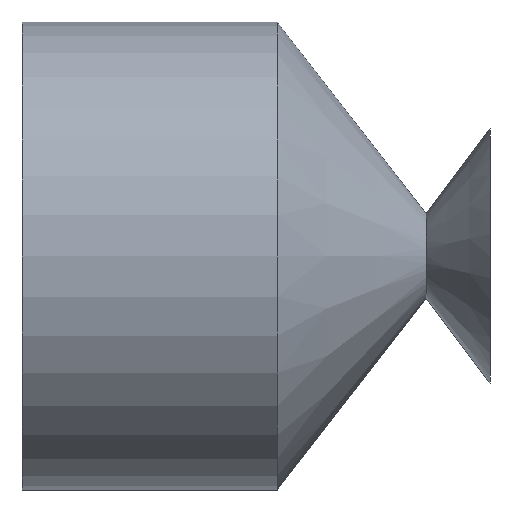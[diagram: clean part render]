
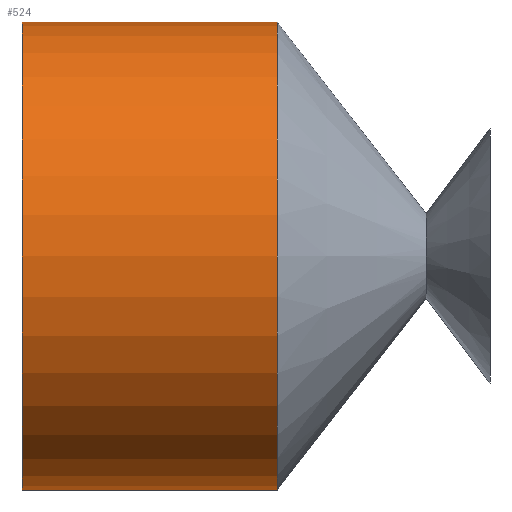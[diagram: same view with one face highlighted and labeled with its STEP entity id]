
A CAD part, left-side view. The second image highlights one B-rep face of the part: STEP entity #524.
In plain terms, the highlighted cylindrical face has radius 5.5 mm (diameter 11 mm), a partial arc.
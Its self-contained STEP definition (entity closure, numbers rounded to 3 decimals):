
#9 = DIRECTION ( 'NONE',  ( 0., 0., -1. ) ) ;
#23 = CARTESIAN_POINT ( 'NONE',  ( 0., 0., 5.5 ) ) ;
#33 = CARTESIAN_POINT ( 'NONE',  ( 0., 11., 0. ) ) ;
#34 = VERTEX_POINT ( 'NONE', #381 ) ;
#49 = EDGE_CURVE ( 'NONE', #318, #34, #58, .T. ) ;
#58 = CIRCLE ( 'NONE', #60, 5.5 ) ;
#59 = CARTESIAN_POINT ( 'NONE',  ( 0., 0., 0. ) ) ;
#60 = AXIS2_PLACEMENT_3D ( 'NONE', #368, #209, #96 ) ;
#61 = ORIENTED_EDGE ( 'NONE', *, *, #474, .F. ) ;
#71 = AXIS2_PLACEMENT_3D ( 'NONE', #33, #382, #9 ) ;
#89 = ORIENTED_EDGE ( 'NONE', *, *, #127, .T. ) ;
#96 = DIRECTION ( 'NONE',  ( 0., 0., -1. ) ) ;
#98 = EDGE_LOOP ( 'NONE', ( #61, #89, #284, #279 ) ) ;
#127 = EDGE_CURVE ( 'NONE', #480, #388, #161, .T. ) ;
#161 = CIRCLE ( 'NONE', #71, 5.5 ) ;
#187 = EDGE_CURVE ( 'NONE', #388, #34, #312, .T. ) ;
#209 = DIRECTION ( 'NONE',  ( 0., -1., 0. ) ) ;
#214 = CARTESIAN_POINT ( 'NONE',  ( 0., 11., 5.5 ) ) ;
#250 = AXIS2_PLACEMENT_3D ( 'NONE', #59, #367, #369 ) ;
#261 = DIRECTION ( 'NONE',  ( 0., -1., 0. ) ) ;
#279 = ORIENTED_EDGE ( 'NONE', *, *, #49, .F. ) ;
#284 = ORIENTED_EDGE ( 'NONE', *, *, #187, .T. ) ;
#287 = DIRECTION ( 'NONE',  ( 0., -1., 0. ) ) ;
#312 = LINE ( 'NONE', #513, #342 ) ;
#318 = VERTEX_POINT ( 'NONE', #378 ) ;
#321 = CARTESIAN_POINT ( 'NONE',  ( 0., 11., -5.5 ) ) ;
#342 = VECTOR ( 'NONE', #261, 1000. ) ;
#367 = DIRECTION ( 'NONE',  ( 0., -1., 0. ) ) ;
#368 = CARTESIAN_POINT ( 'NONE',  ( 0., 5., 0. ) ) ;
#369 = DIRECTION ( 'NONE',  ( 0., 0., -1. ) ) ;
#378 = CARTESIAN_POINT ( 'NONE',  ( 0., 5., 5.5 ) ) ;
#381 = CARTESIAN_POINT ( 'NONE',  ( 0., 5., -5.5 ) ) ;
#382 = DIRECTION ( 'NONE',  ( 0., -1., 0. ) ) ;
#388 = VERTEX_POINT ( 'NONE', #321 ) ;
#429 = CYLINDRICAL_SURFACE ( 'NONE', #250, 5.5 ) ;
#446 = VECTOR ( 'NONE', #287, 1000. ) ;
#474 = EDGE_CURVE ( 'NONE', #480, #318, #478, .T. ) ;
#478 = LINE ( 'NONE', #23, #446 ) ;
#480 = VERTEX_POINT ( 'NONE', #214 ) ;
#511 = FACE_OUTER_BOUND ( 'NONE', #98, .T. ) ;
#513 = CARTESIAN_POINT ( 'NONE',  ( 0., 0., -5.5 ) ) ;
#524 = ADVANCED_FACE ( 'NONE', ( #511 ), #429, .T. ) ;
